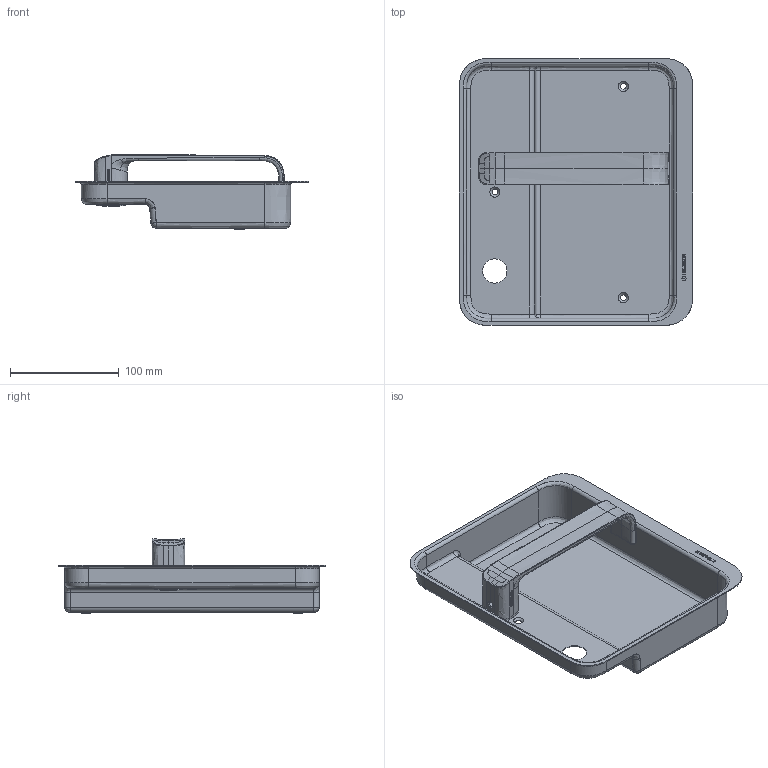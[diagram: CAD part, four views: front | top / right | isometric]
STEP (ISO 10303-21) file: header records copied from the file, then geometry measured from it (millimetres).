
FILE_DESCRIPTION(/* description */ (''),/* implementation_level */ '2;1');
FILE_NAME(/* name */ 'M:\LOC Heusser-Muscheln\Muschel Serie 9\Muschel Serie 9 EN179\S9.42.D4\Heusser-Muschel S9.42.D4.294R.stp',/* time_stamp */ '2020-10-07T15:03:09+02:00',/* author */ ('gm'),/* organization */ (''),/* preprocessor_version */ 'ST-DEVELOPER v16.5',/* originating_system */ 'Autodesk Inventor 2017',/* authorisation */ '');
FILE_SCHEMA (('AUTOMOTIVE_DESIGN { 1 0 10303 214 3 1 1 }'));
Length unit declared in the file: millimetre
Products named in the file (1): S9.42.D4.0R
Bounding box: 214 x 245 x 68.54 mm (x, y, z)
Volume: 131679.6 mm3; surface area: 181496.7 mm2
Topology: 1 solids, 2 shells, 624 faces, 1647 edges, 1067 vertices
Faces by surface type: plane 294, bspline 287, cylinder 25, cone 18
Full cylindrical faces by diameter (mm): 1.7 x2, 4.917 x1, 14.2 x1, 16 x3, 18 x1, 19 x1, 19.1 x1, 22.3 x1, 23 x1, 23.2 x1, 24 x1, 25 x1, 26 x1, 28 x1, 28.6 x1
Entity records: 32750 total; most frequent: CARTESIAN_POINT 18621, ORIENTED_EDGE 3194, DIRECTION 1927, EDGE_CURVE 1597, VERTEX_POINT 1057, LINE 905, VECTOR 905, EDGE_LOOP 722
